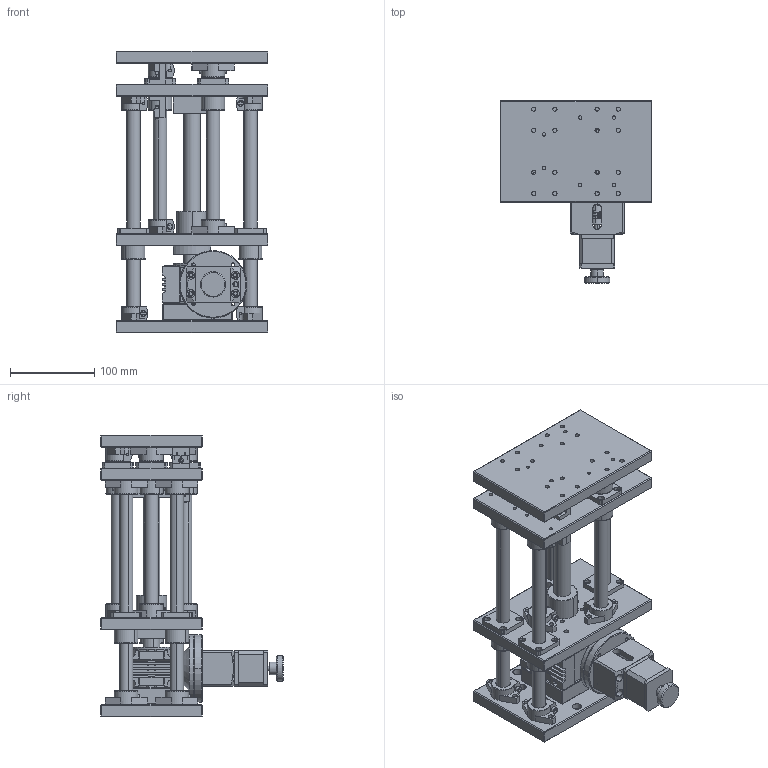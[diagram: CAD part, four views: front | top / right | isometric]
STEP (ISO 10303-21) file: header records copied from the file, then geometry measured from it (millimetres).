
FILE_DESCRIPTION (( 'STEP AP203' ), '1' );
FILE_NAME ('电动升降台：ZT403EW100.STEP', '2022-06-15T06:31:17', ( '' ), ( '' ), 'SwSTEP 2.0', 'SolidWorks 2016', '' );
FILE_SCHEMA (( 'CONFIG_CONTROL_DESIGN' ));
Products named in the file (1): 电动升降台：ZT403EW100
Bounding box: 180 x 216 x 334 mm (x, y, z)
Volume: 2382202.6 mm3; surface area: 611478.7 mm2
Topology: 62 solids, 62 shells, 2967 faces, 8029 edges, 5252 vertices
Faces by surface type: plane 1397, cylinder 1165, cone 199, bspline 126, torus 58, sphere 22
Entity records: 115417 total; most frequent: CARTESIAN_POINT 41755, ORIENTED_EDGE 15926, DIRECTION 14268, EDGE_CURVE 7963, VERTEX_POINT 5208, AXIS2_PLACEMENT_3D 5186, LINE 3896, VECTOR 3896
